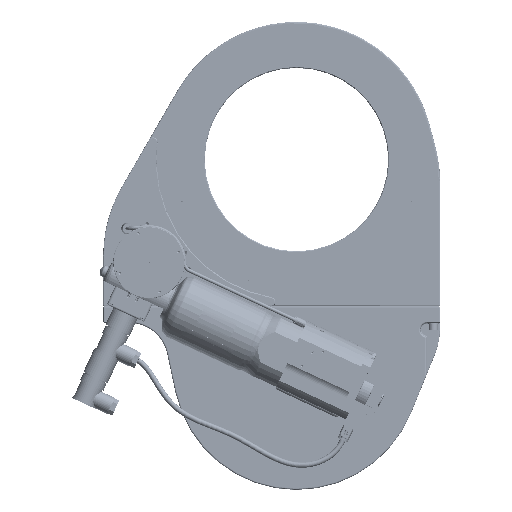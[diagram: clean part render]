
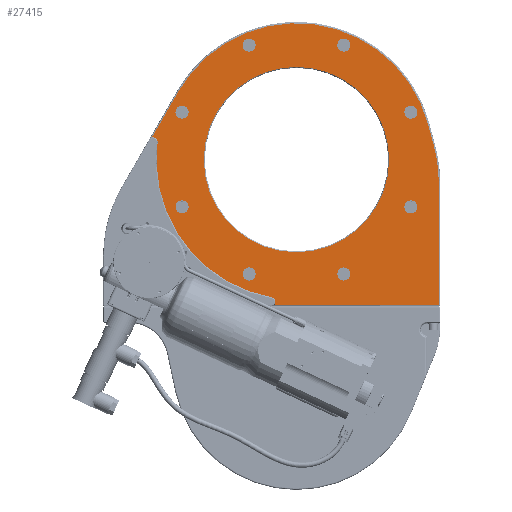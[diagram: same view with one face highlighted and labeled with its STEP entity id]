
A CAD part, top view. The second image highlights one B-rep face of the part: STEP entity #27415.
In plain terms, the highlighted planar face has unit normal (0, 0, 1).
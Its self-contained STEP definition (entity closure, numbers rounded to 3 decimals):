
#15491=LINE('',#116832,#19381);
#15492=LINE('',#116837,#19382);
#15493=LINE('',#116841,#19383);
#15494=LINE('',#116849,#19384);
#19381=VECTOR('',#86018,1.);
#19382=VECTOR('',#86021,1.);
#19383=VECTOR('',#86024,1.);
#19384=VECTOR('',#86031,1.);
#22060=PLANE('',#73579);
#27415=ADVANCED_FACE('',(#30915,#30916,#30917,#30918,#30919,#30920,#30921,
#30922,#30923,#30924),#22060,.F.);
#30915=FACE_BOUND('',#35477,.T.);
#30916=FACE_BOUND('',#35478,.T.);
#30917=FACE_BOUND('',#35479,.T.);
#30918=FACE_BOUND('',#35480,.T.);
#30919=FACE_BOUND('',#35481,.T.);
#30920=FACE_BOUND('',#35482,.T.);
#30921=FACE_BOUND('',#35483,.T.);
#30922=FACE_BOUND('',#35484,.T.);
#30923=FACE_BOUND('',#35485,.T.);
#30924=FACE_BOUND('',#35486,.T.);
#35477=EDGE_LOOP('',(#47414));
#35478=EDGE_LOOP('',(#47415));
#35479=EDGE_LOOP('',(#47416));
#35480=EDGE_LOOP('',(#47417));
#35481=EDGE_LOOP('',(#47418));
#35482=EDGE_LOOP('',(#47419,#47420,#47421,#47422,#47423,#47424,#47425,#47426,
#47427));
#35483=EDGE_LOOP('',(#47428));
#35484=EDGE_LOOP('',(#47429));
#35485=EDGE_LOOP('',(#47430));
#35486=EDGE_LOOP('',(#47431));
#47414=ORIENTED_EDGE('',*,*,#64099,.F.);
#47415=ORIENTED_EDGE('',*,*,#64100,.F.);
#47416=ORIENTED_EDGE('',*,*,#64101,.F.);
#47417=ORIENTED_EDGE('',*,*,#64102,.F.);
#47418=ORIENTED_EDGE('',*,*,#64103,.F.);
#47419=ORIENTED_EDGE('',*,*,#64104,.F.);
#47420=ORIENTED_EDGE('',*,*,#64105,.F.);
#47421=ORIENTED_EDGE('',*,*,#64106,.F.);
#47422=ORIENTED_EDGE('',*,*,#64107,.F.);
#47423=ORIENTED_EDGE('',*,*,#64108,.F.);
#47424=ORIENTED_EDGE('',*,*,#64109,.F.);
#47425=ORIENTED_EDGE('',*,*,#64110,.F.);
#47426=ORIENTED_EDGE('',*,*,#64111,.F.);
#47427=ORIENTED_EDGE('',*,*,#64112,.F.);
#47428=ORIENTED_EDGE('',*,*,#64113,.F.);
#47429=ORIENTED_EDGE('',*,*,#64114,.F.);
#47430=ORIENTED_EDGE('',*,*,#64115,.F.);
#47431=ORIENTED_EDGE('',*,*,#64116,.F.);
#56982=VERTEX_POINT('',#116823);
#56983=VERTEX_POINT('',#116825);
#56984=VERTEX_POINT('',#116827);
#56985=VERTEX_POINT('',#116829);
#56986=VERTEX_POINT('',#116831);
#56987=VERTEX_POINT('',#116833);
#56988=VERTEX_POINT('',#116834);
#56989=VERTEX_POINT('',#116836);
#56990=VERTEX_POINT('',#116838);
#56991=VERTEX_POINT('',#116840);
#56992=VERTEX_POINT('',#116842);
#56993=VERTEX_POINT('',#116844);
#56994=VERTEX_POINT('',#116846);
#56995=VERTEX_POINT('',#116848);
#56996=VERTEX_POINT('',#116851);
#56997=VERTEX_POINT('',#116853);
#56998=VERTEX_POINT('',#116855);
#56999=VERTEX_POINT('',#116857);
#64099=EDGE_CURVE('',#56982,#56982,#68667,.T.);
#64100=EDGE_CURVE('',#56983,#56983,#68668,.T.);
#64101=EDGE_CURVE('',#56984,#56984,#68669,.T.);
#64102=EDGE_CURVE('',#56985,#56985,#68670,.T.);
#64103=EDGE_CURVE('',#56986,#56986,#68671,.T.);
#64104=EDGE_CURVE('',#56987,#56988,#15491,.T.);
#64105=EDGE_CURVE('',#56989,#56987,#68672,.T.);
#64106=EDGE_CURVE('',#56990,#56989,#15492,.T.);
#64107=EDGE_CURVE('',#56991,#56990,#68673,.T.);
#64108=EDGE_CURVE('',#56992,#56991,#15493,.T.);
#64109=EDGE_CURVE('',#56993,#56992,#68674,.T.);
#64110=EDGE_CURVE('',#56994,#56993,#68675,.T.);
#64111=EDGE_CURVE('',#56995,#56994,#68676,.T.);
#64112=EDGE_CURVE('',#56988,#56995,#15494,.T.);
#64113=EDGE_CURVE('',#56996,#56996,#68677,.T.);
#64114=EDGE_CURVE('',#56997,#56997,#68678,.T.);
#64115=EDGE_CURVE('',#56998,#56998,#68679,.T.);
#64116=EDGE_CURVE('',#56999,#56999,#68680,.T.);
#68667=CIRCLE('',#73565,7.135);
#68668=CIRCLE('',#73566,7.135);
#68669=CIRCLE('',#73567,7.135);
#68670=CIRCLE('',#73568,7.135);
#68671=CIRCLE('',#73569,101.);
#68672=CIRCLE('',#73570,148.5);
#68673=CIRCLE('',#73571,148.5);
#68674=CIRCLE('',#73572,5.);
#68675=CIRCLE('',#73573,152.5);
#68676=CIRCLE('',#73574,5.);
#68677=CIRCLE('',#73575,7.135);
#68678=CIRCLE('',#73576,7.135);
#68679=CIRCLE('',#73577,7.135);
#68680=CIRCLE('',#73578,7.135);
#73565=AXIS2_PLACEMENT_3D('',#116822,#86008,#86009);
#73566=AXIS2_PLACEMENT_3D('',#116824,#86010,#86011);
#73567=AXIS2_PLACEMENT_3D('',#116826,#86012,#86013);
#73568=AXIS2_PLACEMENT_3D('',#116828,#86014,#86015);
#73569=AXIS2_PLACEMENT_3D('',#116830,#86016,#86017);
#73570=AXIS2_PLACEMENT_3D('',#116835,#86019,#86020);
#73571=AXIS2_PLACEMENT_3D('',#116839,#86022,#86023);
#73572=AXIS2_PLACEMENT_3D('',#116843,#86025,#86026);
#73573=AXIS2_PLACEMENT_3D('',#116845,#86027,#86028);
#73574=AXIS2_PLACEMENT_3D('',#116847,#86029,#86030);
#73575=AXIS2_PLACEMENT_3D('',#116850,#86032,#86033);
#73576=AXIS2_PLACEMENT_3D('',#116852,#86034,#86035);
#73577=AXIS2_PLACEMENT_3D('',#116854,#86036,#86037);
#73578=AXIS2_PLACEMENT_3D('',#116856,#86038,#86039);
#73579=AXIS2_PLACEMENT_3D('',#116858,#86040,#86041);
#86008=DIRECTION('',(0.,0.,1.));
#86009=DIRECTION('',(-0.707,-0.707,0.));
#86010=DIRECTION('',(0.,0.,1.));
#86011=DIRECTION('',(-0.707,0.707,0.));
#86012=DIRECTION('',(0.,0.,1.));
#86013=DIRECTION('',(0.707,0.707,0.));
#86014=DIRECTION('',(0.,0.,1.));
#86015=DIRECTION('',(0.707,-0.707,0.));
#86016=DIRECTION('',(0.,0.,1.));
#86017=DIRECTION('',(0.,1.,0.));
#86018=DIRECTION('',(0.,-1.,0.));
#86019=DIRECTION('',(0.,0.,-1.));
#86020=DIRECTION('',(0.966,0.259,0.));
#86021=DIRECTION('',(0.259,-0.966,0.));
#86022=DIRECTION('',(0.,0.,-1.));
#86023=DIRECTION('',(-0.866,0.5,0.));
#86024=DIRECTION('',(0.5,0.866,0.));
#86025=DIRECTION('',(0.,0.,1.));
#86026=DIRECTION('',(0.993,-0.122,0.));
#86027=DIRECTION('',(0.,0.,-1.));
#86028=DIRECTION('',(-0.177,-0.984,0.));
#86029=DIRECTION('',(0.,0.,1.));
#86030=DIRECTION('',(0.714,-0.7,0.));
#86031=DIRECTION('',(-1.,0.,0.));
#86032=DIRECTION('',(0.,0.,1.));
#86033=DIRECTION('',(1.,0.,0.));
#86034=DIRECTION('',(0.,0.,1.));
#86035=DIRECTION('',(0.,1.,0.));
#86036=DIRECTION('',(0.,0.,1.));
#86037=DIRECTION('',(-1.,0.,0.));
#86038=DIRECTION('',(0.,0.,1.));
#86039=DIRECTION('',(0.,-1.,0.));
#86040=DIRECTION('',(0.,0.,-1.));
#86041=DIRECTION('',(1.,0.,0.));
#116822=CARTESIAN_POINT('',(51.662,124.724,88.));
#116823=CARTESIAN_POINT('',(46.617,119.679,88.));
#116824=CARTESIAN_POINT('',(124.724,-51.662,88.));
#116825=CARTESIAN_POINT('',(119.679,-46.617,88.));
#116826=CARTESIAN_POINT('',(-51.662,-124.724,88.));
#116827=CARTESIAN_POINT('',(-46.617,-119.679,88.));
#116828=CARTESIAN_POINT('',(-124.724,51.662,88.));
#116829=CARTESIAN_POINT('',(-119.679,46.617,88.));
#116830=CARTESIAN_POINT('',(0.,0.,
88.));
#116831=CARTESIAN_POINT('',(0.,101.,88.));
#116832=CARTESIAN_POINT('',(155.,-24.258,88.));
#116833=CARTESIAN_POINT('',(155.,-24.258,88.));
#116834=CARTESIAN_POINT('',(155.,-158.5,88.));
#116835=CARTESIAN_POINT('',(6.5,-24.258,88.));
#116836=CARTESIAN_POINT('',(149.94,14.176,88.));
#116837=CARTESIAN_POINT('',(143.44,38.435,88.));
#116838=CARTESIAN_POINT('',(143.44,38.435,88.));
#116839=CARTESIAN_POINT('',(0.,0.,
88.));
#116840=CARTESIAN_POINT('',(-128.605,74.25,88.));
#116841=CARTESIAN_POINT('',(-157.565,24.089,88.));
#116842=CARTESIAN_POINT('',(-157.565,24.089,88.));
#116843=CARTESIAN_POINT('',(-156.32,19.246,88.));
#116844=CARTESIAN_POINT('',(-151.357,18.635,88.));
#116845=CARTESIAN_POINT('',(0.,0.,
88.));
#116846=CARTESIAN_POINT('',(-27.064,-150.079,88.));
#116847=CARTESIAN_POINT('',(-27.951,-155.,88.));
#116848=CARTESIAN_POINT('',(-24.38,-158.5,88.));
#116849=CARTESIAN_POINT('',(155.,-158.5,88.));
#116850=CARTESIAN_POINT('',(-124.724,-51.662,88.));
#116851=CARTESIAN_POINT('',(-117.589,-51.662,88.));
#116852=CARTESIAN_POINT('',(51.662,-124.724,88.));
#116853=CARTESIAN_POINT('',(51.662,-117.589,88.));
#116854=CARTESIAN_POINT('',(124.724,51.662,88.));
#116855=CARTESIAN_POINT('',(117.589,51.662,88.));
#116856=CARTESIAN_POINT('',(-51.662,124.724,88.));
#116857=CARTESIAN_POINT('',(-51.662,117.589,88.));
#116858=CARTESIAN_POINT('',(-161.65,151.,88.));
